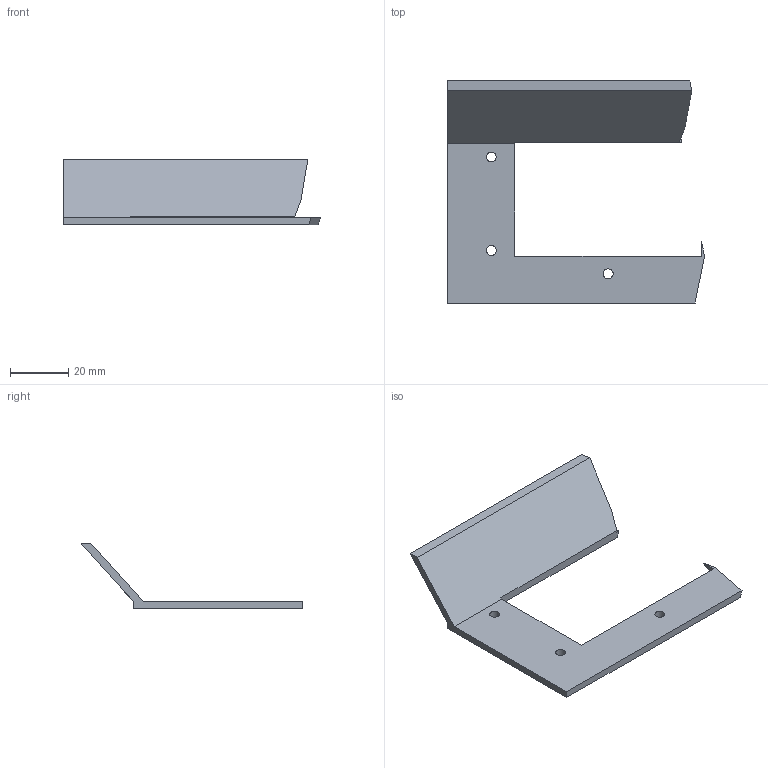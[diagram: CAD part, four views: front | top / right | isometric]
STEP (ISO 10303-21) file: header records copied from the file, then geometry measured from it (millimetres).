
FILE_DESCRIPTION(('Open CASCADE Model'),'2;1');
FILE_NAME('Open CASCADE Shape Model','2026-11-26T11:36:20',('Author'),( 'Open CASCADE'),'Open CASCADE STEP processor 8.0','build123d', 'Unknown');
FILE_SCHEMA(('AUTOMOTIVE_DESIGN { 1 0 10303 214 1 1 1 1 }'));
Length unit declared in the file: millimetre
Products named in the file (2): =>[0:1:1:2]; COMPOUND
Assembly tree (1 placements, depth 2):
  =>[0:1:1:2]
    COMPOUND
Bounding box: 88 x 76 x 22.4 mm (x, y, z)
Volume: 11503.3 mm3; surface area: 10583.1 mm2
Topology: 1 solids, 1 shells, 22 faces, 58 edges, 38 vertices
Faces by surface type: plane 15, bspline 4, cylinder 3
Full cylindrical faces by diameter (mm): 3.4 x3
Entity records: 1416 total; most frequent: CARTESIAN_POINT 352, DIRECTION 146, ORIENTED_EDGE 116, PCURVE 116, DEFINITIONAL_REPRESENTATION 116, LINE 94, VECTOR 94, B_SPLINE_CURVE_WITH_KNOTS 68
